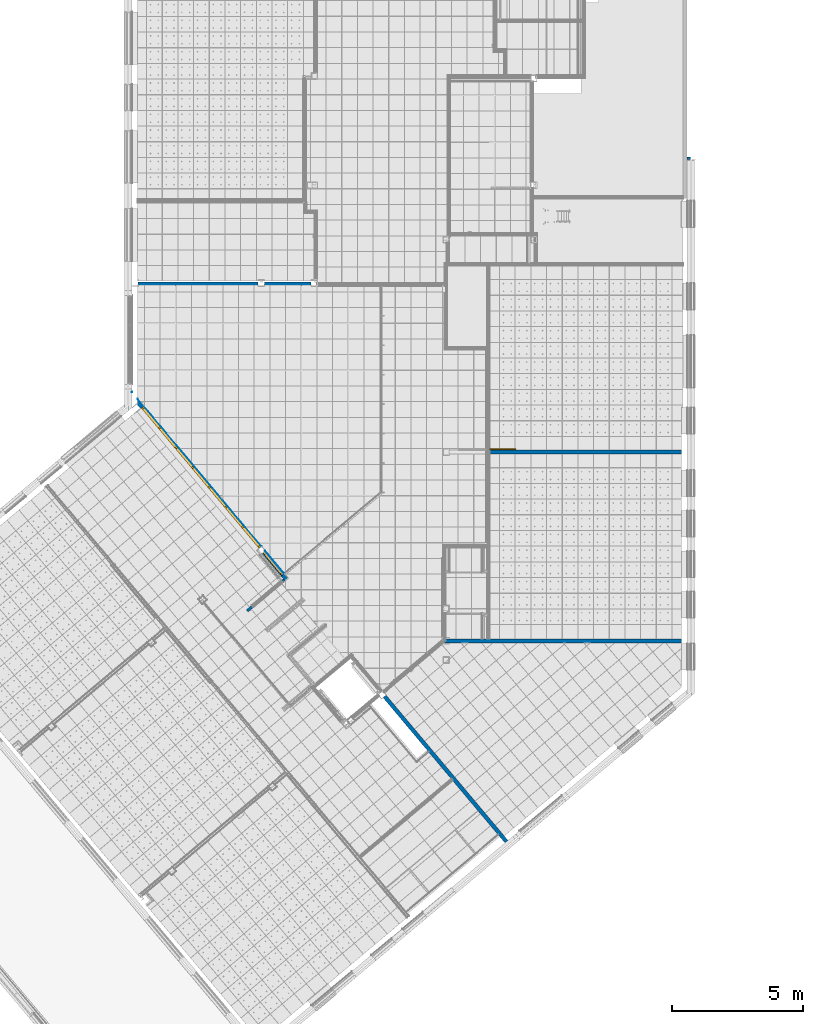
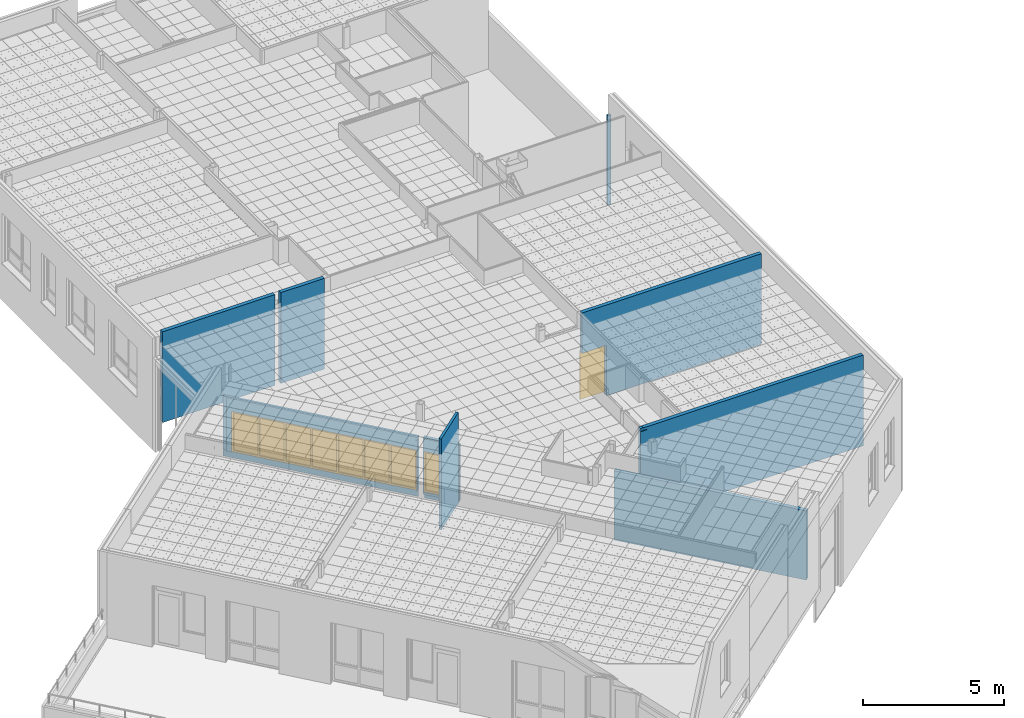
# One storey, part 36 of 321: 13 walls, 2 windows, 1 door, 3 openings.
"""IFC2X3 building model written with IfcOpenShell, lengths in millimetres."""

from ifc_helpers import new_model, entity, si_unit, converted_unit, derived_unit, money_unit, direction, frame, origin_with_axes, place, context, subcontext, project, spatial, open_shell, faceted_brep, surface_model, material, type_object, element, fill, save


model = new_model("IFC2X3")

# Units and contexts
model_context = context("Model", 3, precision=0.01, world=origin_with_axes(), true_north=direction((0.0, 1.0)))
plan_context = context("Plan", 3, precision=0.01, world=origin_with_axes(), true_north=direction((0.0, 1.0)))
body_context = subcontext(model_context, "Body", "Model", "MODEL_VIEW")
ifc_project = project(units=[si_unit("LENGTHUNIT", "METRE", prefix="MILLI"), si_unit("AREAUNIT", "SQUARE_METRE"), si_unit("VOLUMEUNIT", "CUBIC_METRE"), converted_unit("PLANEANGLEUNIT", "DEGREE", entity("IfcPlaneAngleMeasure", 0.0174532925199), si_unit("PLANEANGLEUNIT", "RADIAN"), dimensions=[0, 0, 0, 0, 0, 0, 0]), money_unit("EUR"), converted_unit("TIMEUNIT", "Year", entity("IfcTimeMeasure", 31556926.0), si_unit("TIMEUNIT", "SECOND"), dimensions=[0, 0, 1, 0, 0, 0, 0]), si_unit("MASSUNIT", "GRAM", prefix="KILO"), si_unit("THERMODYNAMICTEMPERATUREUNIT", "DEGREE_CELSIUS"), si_unit("LUMINOUSINTENSITYUNIT", "LUMEN"), si_unit("ENERGYUNIT", "JOULE", prefix="MEGA"), derived_unit("THERMALCONDUCTANCEUNIT", [(si_unit("POWERUNIT", "WATT"), 1), (si_unit("LENGTHUNIT", "METRE"), -1), (si_unit("THERMODYNAMICTEMPERATUREUNIT", "KELVIN"), -1)]), derived_unit("SPECIFICHEATCAPACITYUNIT", [(si_unit("ENERGYUNIT", "JOULE"), 1), (si_unit("MASSUNIT", "GRAM", prefix="KILO"), -1), (si_unit("THERMODYNAMICTEMPERATUREUNIT", "KELVIN"), -1)]), derived_unit("MASSDENSITYUNIT", [(si_unit("MASSUNIT", "GRAM", prefix="KILO"), 1), (si_unit("VOLUMEUNIT", "CUBIC_METRE"), -1)])], contexts=[model_context, plan_context])

# Site, building, storey
site_placement = place(None, origin_with_axes())
site = spatial("IfcSite", under=ifc_project, at=site_placement, Name="Fortuinstraat Woensdrecht", CompositionType="ELEMENT")
building_placement = place(site_placement, origin_with_axes())
building = spatial("IfcBuilding", under=site, at=building_placement, Name="IKC Fortuna", CompositionType="ELEMENT")
storey_placement = place(building_placement, frame((0.0, 0.0, 4000.0), z_axis=(0.0, 0.0, 1.0), x_axis=(1.0, 0.0, 0.0)))
storey = spatial("IfcBuildingStorey", under=building, at=storey_placement, Name="01 eerste verdieping", CompositionType="ELEMENT", Elevation=4000.0)

# Wall
ifc_material_1 = material(Name="Steen - Kalkzandsteen C")
wall_type_1 = type_object("IfcWallType", Name="Steen - Kalkzandsteen C 150", PredefinedType="NOTDEFINED")
wall_1_placement = place(storey_placement, frame((27979.6079647, -5147.2923168, 1100.0), z_axis=(0.0, 0.0, 1.0), x_axis=(-0.642787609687, 0.766044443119, 0.0)))
element("IfcWall", 1, at=wall_1_placement, inside=storey, type_object=wall_type_1, material=ifc_material_1, Name="22_Wand_KZST", context=body_context, shape_type="Brep", body=[
    faceted_brep([(7259.0, 0.0, 0.0), (7259.0, 0.0, 2945.9999802), (0.0, 0.0, 2945.9999802), (3.73034936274e-10, 0.0, 2740.0), (0.0, 0.0, 0.0), (7259.0, 0.15456325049, 3000.0), (7259.0, 0.15456325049, 2945.9999802), (7259.0, 150.0, 0.0), (7259.0, 150.0, 3000.0), (0.0, 0.154563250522, 2945.9999802), (0.0, 0.154563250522, 3000.0), (3.5527136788e-10, 150.0, 3000.0), (0.0, 150.0, 0.0)], [[[0, 1, 2, 3, 4]], [[5, 6, 1, 0, 7, 8]], [[6, 9, 2, 1]], [[2, 9, 10, 11, 12, 4, 3]], [[7, 0, 4, 12]], [[6, 5, 10, 9]], [[7, 12, 11, 8]], [[11, 10, 5, 8]]]),
])

# Wall, opening, window
wall_2_placement = place(storey_placement, frame((18550.5507902, 6089.80881297, 1450.0), z_axis=(0.0, 0.0, 1.0), x_axis=(-0.642787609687, 0.766044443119, 0.0)))
wall_2 = element("IfcWall", 2, at=wall_2_placement, inside=storey, type_object=wall_type_1, material=ifc_material_1, Name="22_Wand_KZST", context=body_context, shape_type="Brep", body=[
    faceted_brep([(7014.0, 0.0, 1760.0), (7014.0, 0.0, 0.0), (7375.86683734, 0.0, 0.0), (7375.86683734, 0.0, 2315.0), (27.6871546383, 0.0, 2315.0), (27.6871546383, 0.0, 2219.0), (33.3146963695, 0.0, 2205.5), (48.6894263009, 0.0, 2195.6173141), (69.6916979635, 0.0, 2192.0), (250.155661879, 0.0, 2192.0), (250.155661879, 0.0, 2166.0), (0.0, 0.0, 2166.0), (0.0, 0.0, 0.0), (25.0, 0.0, 0.0), (25.0, 0.0, 1760.0), (7014.0, 150.0, 1760.0), (7014.0, 150.0, 0.0), (7197.10379845, 150.0, 0.0), (7197.10379845, 150.0, 2315.0), (0.0, 150.0, 2315.0), (0.0, 23.2322812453, 2315.0), (0.0, 23.2322812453, 2219.0), (0.0, 27.9543494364, 2205.5), (0.0, 40.8552796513, 2195.6173141), (0.0, 58.4782780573, 2192.0), (0.0, 150.0, 2192.0), (71.3926229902, 150.0, 2192.0), (71.3926229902, 150.0, 2166.0), (0.0, 150.0, 2166.0), (0.0, 150.0, 0.0), (25.0, 150.0, 0.0), (25.0, 150.0, 1760.0)], [[[0, 1, 2, 3, 4, 5, 6, 7, 8, 9, 10, 11, 12, 13, 14]], [[1, 0, 15, 16]], [[1, 16, 17, 2]], [[18, 3, 2, 17]], [[4, 3, 18, 19, 20]], [[5, 4, 20, 21]], [[6, 5, 21, 22]], [[7, 6, 22, 23]], [[8, 7, 23, 24]], [[8, 24, 25, 26, 9]], [[10, 9, 26, 27]], [[28, 11, 10, 27]], [[11, 28, 29, 12]], [[30, 13, 12, 29]], [[14, 13, 30, 31]], [[0, 14, 31, 15]], [[31, 30, 29, 28, 27, 26, 25, 19, 18, 17, 16, 15]], [[25, 24, 23, 22, 21, 20, 19]]]),
    faceted_brep([(0.0, 4.95657919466, 2315.0), (0.0, 4.95657919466, 2219.0), (0.0, 0.234511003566, 2205.5), (0.0, 0.0, 2205.32035415), (0.0, 0.0, 2315.0), (5.90702106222, 0.0, 2315.0), (5.90702106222, 0.0, 2219.0), (0.279479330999, 0.0, 2205.5)], [[[0, 1, 2, 3, 4]], [[1, 0, 5, 6]], [[1, 6, 7, 2]], [[2, 7, 3]], [[7, 6, 5, 4, 3]], [[4, 5, 0]]]),
])
opening_1_placement = place(wall_2_placement, frame((3519.5, 0.0, 0.0), z_axis=(0.0, 0.0, 1.0), x_axis=(1.0, 0.0, 0.0)))
opening_1 = element("IfcOpeningElement", 3, at=opening_1_placement, cuts=wall_2, Name="32_Raam_h.16", context=body_context, shape_type="Brep", body=[
    faceted_brep([(3494.5, 150.0, 0.0), (3494.5, 150.0, 1760.0), (3494.5, -300.0, 1760.0), (3494.5, -300.0, 0.0), (-3494.5, 150.0, 0.0), (-3494.5, 150.0, 1760.0), (-3494.5, -300.0, 1760.0), (-3494.5, -300.0, 0.0)], [[[0, 1, 2, 3]], [[0, 4, 5, 1]], [[1, 5, 6, 2]], [[3, 2, 6, 7]], [[4, 0, 3, 7]], [[5, 4, 7, 6]]]),
])
window_style_1 = type_object("IfcWindowStyle", Name="Rnx horizontaal 25", ConstructionType="NOTDEFINED", OperationType="USERDEFINED", ParameterTakesPrecedence=False, Sizeable=False)
window_1_placement = place(opening_1_placement, frame((-3494.5, 0.0, 0.0), z_axis=(0.0, 0.0, 1.0), x_axis=(1.0, 0.0, 0.0)))
window_1 = element("IfcWindow", 4, at=window_1_placement, inside=storey, type_object=window_style_1, Name="32_Raam_h.16", ObjectType="WINDOW", OverallHeight=1760.0, OverallWidth=6989.0, context=body_context, shape_type="SurfaceModel", body=[
    faceted_brep([(67.0, 0.0, 1693.0), (67.0, 114.0, 1693.0), (0.0, 114.0, 1693.0), (0.0, 0.0, 1693.0), (67.0, 0.0, 67.0), (67.0, 114.0, 67.0), (0.0, 114.0, 67.0), (0.0, 0.0, 67.0)], [[[0, 1, 2, 3]], [[4, 5, 1, 0]], [[1, 5, 6, 2]], [[3, 2, 6, 7]], [[0, 3, 7, 4]], [[7, 6, 5, 4]]]),
    faceted_brep([(6922.0, 0.0, 67.0), (6922.0, 114.0, 67.0), (6989.0, 114.0, 67.0), (6989.0, 0.0, 67.0), (6922.0, 0.0, 1693.0), (6922.0, 114.0, 1693.0), (6989.0, 114.0, 1693.0), (6989.0, 0.0, 1693.0)], [[[0, 1, 2, 3]], [[4, 5, 1, 0]], [[1, 5, 6, 2]], [[3, 2, 6, 7]], [[0, 3, 7, 4]], [[7, 6, 5, 4]]]),
    faceted_brep([(6922.0, 0.0, 1693.0), (6922.0, 114.0, 1693.0), (6989.0, 114.0, 1693.0), (6989.0, 0.0, 1693.0), (6000.14285714, 0.0, 1693.0), (6000.14285714, 114.0, 1693.0), (5933.14285714, 114.0, 1693.0), (5011.28571429, 114.0, 1693.0), (4944.28571429, 114.0, 1693.0), (4022.42857143, 114.0, 1693.0), (3955.42857143, 114.0, 1693.0), (3033.57142857, 114.0, 1693.0), (2966.57142857, 114.0, 1693.0), (2044.71428571, 114.0, 1693.0), (1977.71428571, 114.0, 1693.0), (1055.85714286, 114.0, 1693.0), (988.857142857, 114.0, 1693.0), (67.0, 114.0, 1693.0), (0.0, 114.0, 1693.0), (0.0, 114.0, 1760.0), (6989.0, 114.0, 1760.0), (6989.0, 0.0, 1760.0), (0.0, 0.0, 1760.0), (0.0, 0.0, 1693.0), (67.0, 0.0, 1693.0), (988.857142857, 0.0, 1693.0), (1055.85714286, 0.0, 1693.0), (1977.71428571, 0.0, 1693.0), (2044.71428571, 0.0, 1693.0), (2966.57142857, 0.0, 1693.0), (3033.57142857, 0.0, 1693.0), (3955.42857143, 0.0, 1693.0), (4022.42857143, 0.0, 1693.0), (4944.28571429, 0.0, 1693.0), (5011.28571429, 0.0, 1693.0), (5933.14285714, 0.0, 1693.0)], [[[0, 1, 2, 3]], [[4, 5, 1, 0]], [[1, 5, 6, 7, 8, 9, 10, 11, 12, 13, 14, 15, 16, 17, 18, 19, 20, 2]], [[3, 2, 20, 21]], [[0, 3, 21, 22, 23, 24, 25, 26, 27, 28, 29, 30, 31, 32, 33, 34, 35, 4]], [[35, 6, 5, 4]], [[34, 7, 6, 35]], [[33, 8, 7, 34]], [[32, 9, 8, 33]], [[31, 10, 9, 32]], [[30, 11, 10, 31]], [[29, 12, 11, 30]], [[28, 13, 12, 29]], [[27, 14, 13, 28]], [[26, 15, 14, 27]], [[25, 16, 15, 26]], [[24, 17, 16, 25]], [[23, 18, 17, 24]], [[22, 19, 18, 23]], [[21, 20, 19, 22]]]),
    faceted_brep([(6000.14285714, 0.0, 67.0), (6000.14285714, 114.0, 67.0), (5933.14285714, 114.0, 67.0), (5933.14285714, 0.0, 67.0), (6922.0, 0.0, 67.0), (6922.0, 114.0, 67.0), (6989.0, 114.0, 67.0), (6989.0, 114.0, 0.0), (0.0, 114.0, 0.0), (0.0, 114.0, 67.0), (67.0, 114.0, 67.0), (988.857142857, 114.0, 67.0), (1055.85714286, 114.0, 67.0), (1977.71428571, 114.0, 67.0), (2044.71428571, 114.0, 67.0), (2966.57142857, 114.0, 67.0), (3033.57142857, 114.0, 67.0), (3955.42857143, 114.0, 67.0), (4022.42857143, 114.0, 67.0), (4944.28571429, 114.0, 67.0), (5011.28571429, 114.0, 67.0), (5011.28571429, 0.0, 67.0), (4944.28571429, 0.0, 67.0), (4022.42857143, 0.0, 67.0), (3955.42857143, 0.0, 67.0), (3033.57142857, 0.0, 67.0), (2966.57142857, 0.0, 67.0), (2044.71428571, 0.0, 67.0), (1977.71428571, 0.0, 67.0), (1055.85714286, 0.0, 67.0), (988.857142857, 0.0, 67.0), (67.0, 0.0, 67.0), (0.0, 0.0, 67.0), (0.0, 0.0, 0.0), (6989.0, 0.0, 0.0), (6989.0, 0.0, 67.0)], [[[0, 1, 2, 3]], [[4, 5, 1, 0]], [[1, 5, 6, 7, 8, 9, 10, 11, 12, 13, 14, 15, 16, 17, 18, 19, 20, 2]], [[3, 2, 20, 21]], [[0, 3, 21, 22, 23, 24, 25, 26, 27, 28, 29, 30, 31, 32, 33, 34, 35, 4]], [[35, 6, 5, 4]], [[34, 7, 6, 35]], [[33, 8, 7, 34]], [[32, 9, 8, 33]], [[31, 10, 9, 32]], [[30, 11, 10, 31]], [[29, 12, 11, 30]], [[28, 13, 12, 29]], [[27, 14, 13, 28]], [[26, 15, 14, 27]], [[25, 16, 15, 26]], [[24, 17, 16, 25]], [[23, 18, 17, 24]], [[22, 19, 18, 23]], [[21, 20, 19, 22]]]),
    faceted_brep([(1055.85714286, 0.0, 67.0), (1055.85714286, 114.0, 67.0), (1055.85714286, 114.0, 1693.0), (1055.85714286, 0.0, 1693.0), (988.857142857, 0.0, 67.0), (988.857142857, 114.0, 67.0), (988.857142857, 114.0, 1693.0), (988.857142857, 0.0, 1693.0)], [[[0, 1, 2, 3]], [[4, 5, 1, 0]], [[1, 5, 6, 2]], [[3, 2, 6, 7]], [[0, 3, 7, 4]], [[7, 6, 5, 4]]]),
    faceted_brep([(2044.71428571, 0.0, 67.0), (2044.71428571, 114.0, 67.0), (2044.71428571, 114.0, 1693.0), (2044.71428571, 0.0, 1693.0), (1977.71428571, 0.0, 67.0), (1977.71428571, 114.0, 67.0), (1977.71428571, 114.0, 1693.0), (1977.71428571, 0.0, 1693.0)], [[[0, 1, 2, 3]], [[4, 5, 1, 0]], [[1, 5, 6, 2]], [[3, 2, 6, 7]], [[0, 3, 7, 4]], [[7, 6, 5, 4]]]),
    faceted_brep([(3033.57142857, 0.0, 67.0), (3033.57142857, 114.0, 67.0), (3033.57142857, 114.0, 1693.0), (3033.57142857, 0.0, 1693.0), (2966.57142857, 0.0, 67.0), (2966.57142857, 114.0, 67.0), (2966.57142857, 114.0, 1693.0), (2966.57142857, 0.0, 1693.0)], [[[0, 1, 2, 3]], [[4, 5, 1, 0]], [[1, 5, 6, 2]], [[3, 2, 6, 7]], [[0, 3, 7, 4]], [[7, 6, 5, 4]]]),
    faceted_brep([(4022.42857143, 0.0, 67.0), (4022.42857143, 114.0, 67.0), (4022.42857143, 114.0, 1693.0), (4022.42857143, 0.0, 1693.0), (3955.42857143, 0.0, 67.0), (3955.42857143, 114.0, 67.0), (3955.42857143, 114.0, 1693.0), (3955.42857143, 0.0, 1693.0)], [[[0, 1, 2, 3]], [[4, 5, 1, 0]], [[1, 5, 6, 2]], [[3, 2, 6, 7]], [[0, 3, 7, 4]], [[7, 6, 5, 4]]]),
    faceted_brep([(5011.28571429, 0.0, 67.0), (5011.28571429, 114.0, 67.0), (5011.28571429, 114.0, 1693.0), (5011.28571429, 0.0, 1693.0), (4944.28571429, 0.0, 67.0), (4944.28571429, 114.0, 67.0), (4944.28571429, 114.0, 1693.0), (4944.28571429, 0.0, 1693.0)], [[[0, 1, 2, 3]], [[4, 5, 1, 0]], [[1, 5, 6, 2]], [[3, 2, 6, 7]], [[0, 3, 7, 4]], [[7, 6, 5, 4]]]),
    faceted_brep([(6000.14285714, 0.0, 67.0), (6000.14285714, 114.0, 67.0), (6000.14285714, 114.0, 1693.0), (6000.14285714, 0.0, 1693.0), (5933.14285714, 0.0, 67.0), (5933.14285714, 114.0, 67.0), (5933.14285714, 114.0, 1693.0), (5933.14285714, 0.0, 1693.0)], [[[0, 1, 2, 3]], [[4, 5, 1, 0]], [[1, 5, 6, 2]], [[3, 2, 6, 7]], [[0, 3, 7, 4]], [[7, 6, 5, 4]]]),
    surface_model("IfcShellBasedSurfaceModel", [(67.0, 50.0, 67.0), (988.857142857, 50.0, 67.0), (988.857142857, 50.0, 1693.0), (67.0, 50.0, 1693.0)], [open_shell([[[0, 1, 2, 3]]])]),
    surface_model("IfcShellBasedSurfaceModel", [(67.0, 70.0, 67.0), (67.0, 70.0, 1693.0), (988.857142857, 70.0, 1693.0), (988.857142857, 70.0, 67.0)], [open_shell([[[0, 1, 2, 3]]])]),
    surface_model("IfcShellBasedSurfaceModel", [(1055.85714286, 50.0, 67.0), (1977.71428571, 50.0, 67.0), (1977.71428571, 50.0, 1693.0), (1055.85714286, 50.0, 1693.0)], [open_shell([[[0, 1, 2, 3]]])]),
    surface_model("IfcShellBasedSurfaceModel", [(1055.85714286, 70.0, 67.0), (1055.85714286, 70.0, 1693.0), (1977.71428571, 70.0, 1693.0), (1977.71428571, 70.0, 67.0)], [open_shell([[[0, 1, 2, 3]]])]),
    surface_model("IfcShellBasedSurfaceModel", [(2044.71428571, 50.0, 67.0), (2966.57142857, 50.0, 67.0), (2966.57142857, 50.0, 1693.0), (2044.71428571, 50.0, 1693.0)], [open_shell([[[0, 1, 2, 3]]])]),
    surface_model("IfcShellBasedSurfaceModel", [(2044.71428571, 70.0, 67.0), (2044.71428571, 70.0, 1693.0), (2966.57142857, 70.0, 1693.0), (2966.57142857, 70.0, 67.0)], [open_shell([[[0, 1, 2, 3]]])]),
    surface_model("IfcShellBasedSurfaceModel", [(3033.57142857, 50.0, 67.0), (3955.42857143, 50.0, 67.0), (3955.42857143, 50.0, 1693.0), (3033.57142857, 50.0, 1693.0)], [open_shell([[[0, 1, 2, 3]]])]),
    surface_model("IfcShellBasedSurfaceModel", [(3033.57142857, 70.0, 67.0), (3033.57142857, 70.0, 1693.0), (3955.42857143, 70.0, 1693.0), (3955.42857143, 70.0, 67.0)], [open_shell([[[0, 1, 2, 3]]])]),
    surface_model("IfcShellBasedSurfaceModel", [(4022.42857143, 50.0, 67.0), (4944.28571429, 50.0, 67.0), (4944.28571429, 50.0, 1693.0), (4022.42857143, 50.0, 1693.0)], [open_shell([[[0, 1, 2, 3]]])]),
    surface_model("IfcShellBasedSurfaceModel", [(4022.42857143, 70.0, 67.0), (4022.42857143, 70.0, 1693.0), (4944.28571429, 70.0, 1693.0), (4944.28571429, 70.0, 67.0)], [open_shell([[[0, 1, 2, 3]]])]),
    surface_model("IfcShellBasedSurfaceModel", [(5011.28571429, 50.0, 67.0), (5933.14285714, 50.0, 67.0), (5933.14285714, 50.0, 1693.0), (5011.28571429, 50.0, 1693.0)], [open_shell([[[0, 1, 2, 3]]])]),
    surface_model("IfcShellBasedSurfaceModel", [(5011.28571429, 70.0, 67.0), (5011.28571429, 70.0, 1693.0), (5933.14285714, 70.0, 1693.0), (5933.14285714, 70.0, 67.0)], [open_shell([[[0, 1, 2, 3]]])]),
    surface_model("IfcShellBasedSurfaceModel", [(6000.14285714, 50.0, 67.0), (6922.0, 50.0, 67.0), (6922.0, 50.0, 1693.0), (6000.14285714, 50.0, 1693.0)], [open_shell([[[0, 1, 2, 3]]])]),
    surface_model("IfcShellBasedSurfaceModel", [(6000.14285714, 70.0, 67.0), (6000.14285714, 70.0, 1693.0), (6922.0, 70.0, 1693.0), (6922.0, 70.0, 67.0)], [open_shell([[[0, 1, 2, 3]]])]),
])
fill(opening_1, window_1)

# Wall
wall_3_placement = place(storey_placement, frame((34833.4270571, 2557.43245324, -90.0), z_axis=(0.0, 0.0, 1.0), x_axis=(-0.999999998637, -5.22087810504e-05, 0.0)))
element("IfcWall", 5, at=wall_3_placement, inside=storey, type_object=wall_type_1, material=ifc_material_1, Name="22_Wand_KZST", context=body_context, shape_type="Brep", body=[
    faceted_brep([(9335.49209328, 150.0, 3930.0), (9222.99992446, 150.0, 3930.0), (9222.99209314, 0.0, 3930.0), (9335.49209328, 0.0, 3930.0), (9226.61723856, 150.0, 3829.0), (9222.99992446, 150.0, 3842.5), (9335.49209328, 150.0, 3815.5), (9249.9999245, 150.0, 3815.5), (9236.49992448, 150.0, 3819.1173141), (9222.99209314, 0.0, 3842.5), (9236.49209316, 0.0, 3819.1173141), (9249.99209318, 0.0, 3815.5), (9335.49209328, 0.0, 3815.5), (9226.60940725, 0.0, 3829.0)], [[[0, 1, 2, 3]], [[4, 5, 1, 0, 6, 7, 8]], [[5, 9, 2, 1]], [[10, 11, 12, 3, 2, 9, 13]], [[3, 12, 6, 0]], [[4, 13, 9, 5]], [[6, 12, 11, 7]], [[7, 11, 10, 8]], [[8, 10, 13, 4]]]),
    faceted_brep([(9335.49209328, 0.0, 0.0), (9335.49209328, 0.0, 3798.0), (9067.99209293, 0.0, 3798.0), (9067.99209293, 0.0, 3815.5), (9185.99209309, 0.0, 3815.5), (9199.49209311, 0.0, 3819.1173141), (9209.37477903, 0.0, 3829.0), (9212.99209313, 0.0, 3842.5), (9212.99209313, 0.0, 3930.0), (214.00000505, 0.0, 3930.0), (214.00000505, 0.0, 0.0), (9335.49209328, 150.0, 0.0), (9335.49209328, 150.0, 3798.0), (9067.99992425, 150.0, 3798.0), (9067.99992425, 150.0, 3815.5), (9185.99992441, 150.0, 3815.5), (9199.49992443, 150.0, 3819.1173141), (9209.38261035, 150.0, 3829.0), (9212.99992445, 150.0, 3842.5), (9212.99992445, 150.0, 3930.0), (214.007836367, 150.0, 3930.0), (214.007836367, 150.0, 0.0)], [[[0, 1, 2, 3, 4, 5, 6, 7, 8, 9, 10]], [[11, 12, 1, 0]], [[13, 2, 1, 12]], [[14, 3, 2, 13]], [[15, 4, 3, 14]], [[16, 5, 4, 15]], [[17, 6, 5, 16]], [[18, 7, 6, 17]], [[18, 19, 8, 7]], [[9, 8, 19, 20]], [[20, 21, 10, 9]], [[11, 0, 10, 21]], [[14, 13, 12, 11, 21, 20, 19, 18, 17, 16, 15]]]),
])

# Wall, opening, door
wall_4_placement = place(storey_placement, frame((34833.4270571, 9785.10705764, -90.0), z_axis=(0.0, 0.0, 1.0), x_axis=(-1.0, 0.0, 0.0)))
wall_4 = element("IfcWall", 6, at=wall_4_placement, inside=storey, type_object=wall_type_1, material=ifc_material_1, Name="22_Wand_KZST", context=body_context, shape_type="Brep", body=[
    faceted_brep([(6550.93950685, 0.0, 2190.0), (7550.83950685, 0.0, 2190.0), (7550.83950685, 0.0, 3930.0), (214.000004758, 0.0, 3930.0), (214.000004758, 0.0, 0.0), (6550.93950685, 0.0, 0.0), (6550.93950685, 0.0, 90.0), (6550.93950685, 150.0, 2190.0), (7550.83950685, 150.0, 2190.0), (7550.83950685, 150.0, 3930.0), (214.000004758, 150.0, 3930.0), (214.000004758, 150.0, 0.0), (6550.93950685, 150.0, 0.0), (6550.93950685, 150.0, 90.0)], [[[0, 1, 2, 3, 4, 5, 6]], [[1, 0, 7, 8]], [[1, 8, 9, 2]], [[9, 10, 3, 2]], [[11, 4, 3, 10]], [[12, 5, 4, 11]], [[13, 6, 5, 12]], [[0, 6, 13, 7]], [[7, 13, 12, 11, 10, 9, 8]]]),
])
opening_2_placement = place(wall_4_placement, frame((7050.93950685, 0.0, 90.0), z_axis=(0.0, 0.0, 1.0), x_axis=(1.0, 0.0, 0.0)))
opening_2 = element("IfcOpeningElement", 7, at=opening_2_placement, cuts=wall_4, Name="32_Deur_s.01", context=body_context, shape_type="Brep", body=[
    faceted_brep([(-500.0, -150.0, -90.0), (-500.0, -150.0, 2100.0), (-500.0, 300.0, 2100.0), (-500.0, 300.0, -90.0), (500.0, -150.0, -90.0), (500.0, -150.0, 2100.0), (500.0, 300.0, 2100.0), (500.0, 300.0, -90.0)], [[[0, 1, 2, 3]], [[0, 4, 5, 1]], [[1, 5, 6, 2]], [[3, 2, 6, 7]], [[4, 0, 3, 7]], [[5, 4, 7, 6]]]),
])
door_style = type_object("IfcDoorStyle", Name="DS1 voor wand 25", ConstructionType="NOTDEFINED", OperationType="SLIDING_TO_RIGHT", ParameterTakesPrecedence=False, Sizeable=False)
door_placement = place(opening_2_placement, frame((500.0, 0.0, 0.0), z_axis=(0.0, 0.0, 1.0), x_axis=(-1.0, 0.0, 0.0)))
door = element("IfcDoor", 8, at=door_placement, inside=storey, type_object=door_style, Name="32_Deur_s.01", ObjectType="DOOR", OverallHeight=2100.0, OverallWidth=1000.0, context=body_context, shape_type="Brep", body=[
    faceted_brep([(1000.0, 45.0, 0.0), (1000.0, 5.0, 0.0), (0.0, 5.0, 0.0), (0.0, 45.0, 0.0), (1000.0, 45.0, 2100.0), (1000.0, 5.0, 2100.0), (0.0, 5.0, 2100.0), (0.0, 45.0, 2100.0)], [[[0, 1, 2, 3]], [[4, 5, 1, 0]], [[1, 5, 6, 2]], [[3, 2, 6, 7]], [[0, 3, 7, 4]], [[7, 6, 5, 4]]]),
])
fill(opening_2, door)

# Wall, opening, window
wall_5_placement = place(storey_placement, frame((18685.536095, 5928.9395498, 1300.0), z_axis=(0.0, 0.0, 1.0), x_axis=(0.642787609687, -0.766044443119, 0.0)))
wall_5 = element("IfcWall", 9, at=wall_5_placement, inside=storey, type_object=wall_type_1, material=ifc_material_1, Name="22_Wand_KZST", context=body_context, shape_type="Brep", body=[
    faceted_brep([(0.0, -150.0, 2499.99988221), (4.95875855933e-05, -150.0, 60.0), (1145.21806744, -150.0, 60.0), (1145.21806744, -150.0, 2465.0), (46.3543121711, -150.0, 2465.0), (46.3543121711, -150.0, 2499.99988221), (25.1091472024, -150.0, 150.0), (25.1091472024, -150.0, 1910.0), (1120.1091472, -150.0, 1910.0), (1120.1091472, -150.0, 150.0), (0.0, 0.0, 2499.99988221), (4.91634075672e-05, -5.01270314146e-05, 60.0), (1145.21806742, 0.00480609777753, 60.0), (1145.21806744, 9.26702483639e-05, 2465.0), (46.3543121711, 9.26698859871e-05, 2465.0), (46.3543121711, -142.132593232, 2492.5), (46.3543121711, -144.142180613, 2499.99988221), (46.3543121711, 9.26698859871e-05, 2479.0), (46.3543121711, -118.74990733, 2479.0), (46.3543121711, -132.24990733, 2482.6173141), (1145.21806744, 0.0, 2499.99988221), (1145.21806744, -144.142180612, 2499.99988221), (25.1091472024, 9.26698859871e-05, 150.0), (25.1091472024, 9.26698859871e-05, 1910.0), (1120.1091472, 9.26698859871e-05, 1910.0), (1120.1091472, 9.26698859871e-05, 150.0), (1145.21806744, 9.26702483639e-05, 2479.0), (1145.21806744, -142.132593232, 2492.5), (1145.21806744, -118.74990733, 2479.0), (1145.21806744, -132.24990733, 2482.6173141)], [[[0, 1, 2, 3, 4, 5], [6, 7, 8, 9]], [[10, 11, 1, 0]], [[1, 11, 12, 2]], [[13, 3, 2, 12]], [[3, 13, 14, 4]], [[15, 16, 5, 4, 14, 17, 18, 19]], [[20, 10, 0, 5, 16, 21]], [[22, 23, 7, 6]], [[23, 24, 8, 7]], [[24, 25, 9, 8]], [[25, 22, 6, 9]], [[10, 20, 26, 17, 14, 13, 12, 11], [22, 25, 24, 23]], [[27, 21, 16, 15]], [[17, 26, 28, 18]], [[28, 29, 19, 18]], [[29, 27, 15, 19]], [[26, 20, 21, 27, 29, 28]]]),
])
opening_3_placement = place(wall_5_placement, frame((572.609147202, 0.0, 150.0), z_axis=(0.0, 0.0, 1.0), x_axis=(1.0, 0.0, 0.0)))
opening_3 = element("IfcOpeningElement", 10, at=opening_3_placement, cuts=wall_5, Name="32_Raam_h.17", context=body_context, shape_type="Brep", body=[
    faceted_brep([(-547.5, -150.0, 0.0), (-547.5, -150.0, 1760.0), (-547.5, 300.0, 1760.0), (-547.5, 300.0, 0.0), (547.5, -150.0, 0.0), (547.5, -150.0, 1760.0), (547.5, 300.0, 1760.0), (547.5, 300.0, 0.0)], [[[0, 1, 2, 3]], [[0, 4, 5, 1]], [[1, 5, 6, 2]], [[3, 2, 6, 7]], [[4, 0, 3, 7]], [[5, 4, 7, 6]]]),
])
window_style_2 = type_object("IfcWindowStyle", Name="R1 25", ConstructionType="NOTDEFINED", OperationType="SINGLE_PANEL", ParameterTakesPrecedence=False, Sizeable=False)
window_2_placement = place(opening_3_placement, frame((547.5, 0.0, 0.0), z_axis=(0.0, 0.0, 1.0), x_axis=(-1.0, 0.0, 0.0)))
window_2 = element("IfcWindow", 11, at=window_2_placement, inside=storey, type_object=window_style_2, Name="32_Raam_h.17", ObjectType="WINDOW", OverallHeight=1760.0, OverallWidth=1095.0, context=body_context, shape_type="SurfaceModel", body=[
    faceted_brep([(67.0, 0.0, 1693.0), (67.0, 114.0, 1693.0), (0.0, 114.0, 1693.0), (0.0, 0.0, 1693.0), (67.0, 0.0, 67.0), (67.0, 114.0, 67.0), (0.0, 114.0, 67.0), (0.0, 0.0, 67.0)], [[[0, 1, 2, 3]], [[4, 5, 1, 0]], [[1, 5, 6, 2]], [[3, 2, 6, 7]], [[0, 3, 7, 4]], [[7, 6, 5, 4]]]),
    faceted_brep([(1028.0, 0.0, 67.0), (1028.0, 114.0, 67.0), (1095.0, 114.0, 67.0), (1095.0, 0.0, 67.0), (1028.0, 0.0, 1693.0), (1028.0, 114.0, 1693.0), (1095.0, 114.0, 1693.0), (1095.0, 0.0, 1693.0)], [[[0, 1, 2, 3]], [[4, 5, 1, 0]], [[1, 5, 6, 2]], [[3, 2, 6, 7]], [[0, 3, 7, 4]], [[7, 6, 5, 4]]]),
    faceted_brep([(67.0, 0.0, 67.0), (67.0, 114.0, 67.0), (0.0, 114.0, 67.0), (0.0, 0.0, 67.0), (1028.0, 0.0, 67.0), (1028.0, 114.0, 67.0), (1095.0, 114.0, 67.0), (1095.0, 114.0, 0.0), (0.0, 114.0, 0.0), (0.0, 0.0, 0.0), (1095.0, 0.0, 0.0), (1095.0, 0.0, 67.0)], [[[0, 1, 2, 3]], [[4, 5, 1, 0]], [[1, 5, 6, 7, 8, 2]], [[3, 2, 8, 9]], [[0, 3, 9, 10, 11, 4]], [[11, 6, 5, 4]], [[10, 7, 6, 11]], [[9, 8, 7, 10]]]),
    faceted_brep([(1028.0, 0.0, 1693.0), (1028.0, 114.0, 1693.0), (1095.0, 114.0, 1693.0), (1095.0, 0.0, 1693.0), (67.0, 0.0, 1693.0), (67.0, 114.0, 1693.0), (0.0, 114.0, 1693.0), (0.0, 114.0, 1760.0), (1095.0, 114.0, 1760.0), (1095.0, 0.0, 1760.0), (0.0, 0.0, 1760.0), (0.0, 0.0, 1693.0)], [[[0, 1, 2, 3]], [[4, 5, 1, 0]], [[1, 5, 6, 7, 8, 2]], [[3, 2, 8, 9]], [[0, 3, 9, 10, 11, 4]], [[11, 6, 5, 4]], [[10, 7, 6, 11]], [[9, 8, 7, 10]]]),
    surface_model("IfcShellBasedSurfaceModel", [(67.0, 50.0, 67.0), (1028.0, 50.0, 67.0), (1028.0, 50.0, 1693.0), (67.0, 50.0, 1693.0)], [open_shell([[[0, 1, 2, 3]]])]),
    surface_model("IfcShellBasedSurfaceModel", [(67.0, 70.0, 67.0), (67.0, 70.0, 1693.0), (1028.0, 70.0, 1693.0), (1028.0, 70.0, 67.0)], [open_shell([[[0, 1, 2, 3]]])]),
])
fill(opening_3, window_2)

# Walls
wall_6_placement = place(storey_placement, frame((19566.2720497, 4879.31945588, 1323.0), z_axis=(0.0, 0.0, 1.0), x_axis=(-0.642787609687, 0.766044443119, 0.0)))
element("IfcWall", 12, at=wall_6_placement, inside=storey, type_object=wall_type_1, material=ifc_material_1, Name="22_Wand_KZST", context=body_context, shape_type="Brep", body=[
    faceted_brep([(224.963731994, -0.00471339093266, 37.0), (224.963731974, 3.6600056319e-08, 2442.0), (5.28237009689e-07, 3.66036090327e-08, 2442.0), (3.68257389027e-05, -0.00566733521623, 37.0), (224.963731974, 150.0, 37.0), (224.963731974, 150.0, 2442.0), (4.19111856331e-07, 150.0, 2442.0), (2.92147035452e-05, 150.0, 37.0)], [[[0, 1, 2, 3]], [[4, 5, 1, 0]], [[5, 6, 2, 1]], [[3, 2, 6, 7]], [[7, 4, 0, 3]], [[7, 6, 5, 4]]]),
    faceted_brep([(2.92147017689e-05, 142.132685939, 2469.5), (2.92146946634e-05, 132.250000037, 2459.6173141), (2.92146893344e-05, 118.750000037, 2456.0), (3.16941139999e-07, 3.66071617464e-08, 2456.0), (0.0, 0.0, 2476.99988221), (0.0, 144.142273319, 2476.99988221), (224.963731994, 132.250000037, 2459.6173141), (224.963731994, 142.132685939, 2469.5), (224.963731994, 118.750000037, 2456.0), (224.963731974, 3.6600056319e-08, 2456.0), (224.963731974, 0.0, 2476.99988221), (224.963731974, 144.142273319, 2476.99988221)], [[[0, 1, 2, 3, 4, 5]], [[6, 1, 0, 7]], [[8, 2, 1, 6]], [[8, 9, 3, 2]], [[4, 3, 9, 10]], [[10, 11, 5, 4]], [[7, 0, 5, 11]], [[6, 7, 11, 10, 9, 8]]]),
])
wall_type_2 = type_object("IfcWallType", Name="Steen - Kalkzandsteen C 100", PredefinedType="NOTDEFINED")
wall_7_placement = place(storey_placement, frame((18034.1888407, 3593.74900034, 1300.0), z_axis=(0.0, 0.0, 1.0), x_axis=(0.766044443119, 0.642787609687, 0.0)))
element("IfcWall", 13, at=wall_7_placement, inside=storey, type_object=wall_type_2, material=ifc_material_1, Name="22_Wand_KZST", context=body_context, shape_type="Brep", body=[
    faceted_brep([(1759.9925888, 7.83347786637e-06, 2741.0), (1699.99258876, -6.46514894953e-05, 2741.0), (1699.99258876, -6.46514894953e-05, 2755.0), (1759.9925888, 7.7456725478e-06, 2755.0), (1759.9925888, 0.0, 3990.0), (0.0, 0.0, 3990.0), (7.67001751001e-05, -6.46514877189e-05, 60.0), (1759.9925888, 2.46481715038e-05, 60.0), (1759.9925888, 9.56449319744e-06, 2465.0), (1699.99258876, -6.46514894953e-05, 2465.0), (1699.99258876, -6.46514894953e-05, 2479.0), (1759.9925888, 9.47668787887e-06, 2479.0), (1699.99258876, 100.0, 2741.0), (1759.9925888, 100.0, 2741.0), (1699.99258876, 100.0, 2755.0), (1759.9925888, 100.0, 2755.0), (1759.9925888, 100.0, 3990.0), (0.0, 100.0, 3990.0), (0.0, 100.0, 60.0), (1759.9925888, 100.0, 60.0), (1759.9925888, 100.0, 2465.0), (1699.99258876, 100.0, 2465.0), (1699.99258876, 100.0, 2479.0), (1759.9925888, 100.0, 2479.0)], [[[0, 1, 2, 3, 4, 5, 6, 7, 8, 9, 10, 11]], [[12, 1, 0, 13]], [[14, 2, 1, 12]], [[14, 15, 3, 2]], [[4, 3, 15, 16]], [[16, 17, 5, 4]], [[5, 17, 18, 6]], [[6, 18, 19, 7]], [[19, 20, 8, 7]], [[21, 9, 8, 20]], [[22, 10, 9, 21]], [[22, 23, 11, 10]], [[23, 13, 0, 11]], [[14, 12, 13, 23, 22, 21, 20, 19, 18, 17, 16, 15]]]),
])
wall_8_placement = place(storey_placement, frame((19382.4213833, 4725.05042956, 1323.0), z_axis=(0.0, 0.0, 1.0), x_axis=(0.766044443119, 0.642787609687, 0.0)))
element("IfcWall", 14, at=wall_8_placement, inside=storey, type_object=wall_type_2, material=ifc_material_1, Name="22_Wand_KZST", context=body_context, shape_type="Brep", body=[
    faceted_brep([(58.7499999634, 2.46481732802e-05, 2456.0), (72.2499999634, 2.46481715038e-05, 2459.6173141), (82.1326858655, 2.46481715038e-05, 2469.5), (84.1422732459, 0.0, 2476.99988221), (0.0, 0.0, 2476.99988221), (0.0, 2.12134310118e-07, 2456.0), (72.2499999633, 100.0, 2459.6173141), (58.7499999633, 100.0, 2456.0), (82.1326858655, 100.0, 2469.5), (84.1422732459, 100.0, 2476.99988221), (0.0, 100.0, 2476.99988221), (0.0, 100.0, 2456.0)], [[[0, 1, 2, 3, 4, 5]], [[6, 1, 0, 7]], [[8, 2, 1, 6]], [[8, 9, 3, 2]], [[4, 3, 9, 10]], [[10, 11, 5, 4]], [[7, 0, 5, 11]], [[6, 7, 11, 10, 9, 8]]]),
    faceted_brep([(90.0, 100.0, 37.0), (90.0, 100.0, 2442.0), (90.0, 4.1906211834e-07, 2442.0), (90.0, 2.92146520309e-05, 37.0), (0.0, 100.0, 37.0), (0.0, 100.0, 2442.0), (0.0, 3.53558959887e-07, 2442.0), (0.0, 2.46481715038e-05, 37.0)], [[[0, 1, 2, 3]], [[4, 5, 1, 0]], [[5, 6, 2, 1]], [[3, 2, 6, 7]], [[7, 4, 0, 3]], [[7, 6, 5, 4]]]),
])
ifc_material_2 = material(Name="ALG - ISOLATIE")
wall_type_3 = type_object("IfcWallType", Name="ALG - ISOLATIE 140", PredefinedType="NOTDEFINED")
wall_9_placement = place(storey_placement, frame((34833.4270571, 20912.2966283, -990.0), z_axis=(0.0, 0.0, 1.0), x_axis=(0.0, 1.0, 0.0)))
element("IfcWall", 15, at=wall_9_placement, inside=storey, type_object=wall_type_3, material=ifc_material_2, Name="21_Wand_Baksteen", context=body_context, shape_type="Brep", body=[
    faceted_brep([(84.0, 0.0, 0.0), (84.0, 0.0, 3887.5), (84.0, -140.0, 3887.5), (84.0, -140.0, 0.0), (0.0, 0.0, 0.0), (0.0, 0.0, 3887.5), (0.0, -140.0, 3887.5), (0.0, -140.0, 0.0)], [[[0, 1, 2, 3]], [[4, 5, 1, 0]], [[5, 6, 2, 1]], [[3, 2, 6, 7]], [[7, 4, 0, 3]], [[7, 6, 5, 4]]]),
])
ifc_material_3 = material(Name="Gipsplaat")
wall_type_4 = type_object("IfcWallType", Name="Gipsplaat 13", PredefinedType="NOTDEFINED")
wall_10_placement = place(storey_placement, frame((18703.1465792, 5927.39876141, 1100.0), z_axis=(0.0, 0.0, 1.0), x_axis=(0.642787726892, -0.766044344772, 0.0)))
element("IfcWall", 16, at=wall_10_placement, inside=storey, type_object=wall_type_4, material=ifc_material_3, Name="22_Wand_KZST", context=body_context, shape_type="Brep", body=[
    faceted_brep([(1120.21795396, 0.0, 0.0), (1120.21795396, -12.5, 0.0), (0.0, -12.5, 0.0), (0.0, 0.0, 0.0), (1120.21795396, 0.0, 350.0), (1120.21795396, -12.5, 350.0), (0.0, -12.5, 350.0), (0.0, 0.0, 350.0)], [[[0, 1, 2, 3]], [[0, 4, 5, 1]], [[1, 5, 6, 2]], [[3, 2, 6, 7]], [[4, 0, 3, 7]], [[5, 4, 7, 6]]]),
])
wall_type_5 = type_object("IfcWallType", Name="KZ 150 150", PredefinedType="NOTDEFINED")
wall_11_placement = place(storey_placement, frame((13827.9349765, 16139.7966282, -90.0), z_axis=(0.0, 0.0, 1.0), x_axis=(1.0, 0.0, 0.0)))
element("IfcWall", 17, at=wall_11_placement, inside=storey, type_object=wall_type_5, material=ifc_material_1, Name="22_Wand_Binnenwand", context=body_context, shape_type="Brep", body=[
    faceted_brep([(0.0, -75.0, 3930.0), (4589.31885379, -75.0, 3930.0), (4589.31885379, 75.0, 3930.0), (0.0, 75.0, 3930.0), (0.0, -75.0, 0.0), (4589.31885379, -75.0, 0.0), (4589.31885379, 75.0, 0.0), (0.0, 75.0, 0.0)], [[[0, 1, 2, 3]], [[4, 5, 1, 0]], [[2, 1, 5, 6]], [[3, 2, 6, 7]], [[4, 0, 3, 7]], [[7, 6, 5, 4]]]),
])
wall_12_placement = place(storey_placement, frame((18662.2538303, 16139.7966282, -90.0), z_axis=(0.0, 0.0, 1.0), x_axis=(1.0, 0.0, 0.0)))
element("IfcWall", 18, at=wall_12_placement, inside=storey, type_object=wall_type_5, material=ifc_material_1, Name="22_Wand_Binnenwand", context=body_context, shape_type="Brep", body=[
    faceted_brep([(0.0, -75.0, 3930.0), (1784.68114623, -75.0, 3930.0), (1784.68114623, 75.0, 3930.0), (0.0, 75.0, 3930.0), (0.0, -75.0, 0.0), (1784.68114623, -75.0, 0.0), (1784.68114623, 75.0, 0.0), (0.0, 75.0, 0.0)], [[[0, 1, 2, 3]], [[4, 5, 1, 0]], [[2, 1, 5, 6]], [[3, 2, 6, 7]], [[4, 0, 3, 7]], [[7, 6, 5, 4]]]),
])
wall_type_6 = type_object("IfcWallType", Name="Gipsplaat 12", PredefinedType="NOTDEFINED")
wall_13_placement = place(storey_placement, frame((18552.0915513, 6107.41925615, 1100.0), z_axis=(0.0, 0.0, 1.0), x_axis=(-0.642787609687, 0.766044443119, 0.0)))
element("IfcWall", 19, at=wall_13_placement, inside=storey, type_object=wall_type_6, material=ifc_material_3, Name="22_Wand_KZST", context=body_context, shape_type="Brep", body=[
    faceted_brep([(0.0, 0.0, 350.0), (0.0, 0.0, 0.0), (7378.26383599, 0.0, 0.0), (7378.26383599, 0.0, 350.0), (0.0, 12.0, 350.0), (0.0, 12.0, 0.0), (7363.96279288, 12.0, 0.0), (7363.96279288, 12.0, 350.0)], [[[0, 1, 2, 3]], [[0, 4, 5, 1]], [[1, 5, 6, 2]], [[2, 6, 7, 3]], [[4, 0, 3, 7]], [[5, 4, 7, 6]]]),
    faceted_brep([(7711.18873494, 0.0, 200.0), (7711.18873494, 12.0, 200.0), (7711.18873494, 12.0, 350.0), (7711.18873494, 0.0, 350.0), (7696.88769183, 12.0, 200.0), (7696.88769183, 12.0, 350.0)], [[[0, 1, 2, 3]], [[0, 4, 1]], [[4, 5, 2, 1]], [[2, 5, 3]], [[5, 4, 0, 3]]]),
])

save(model, "model.ifc")
